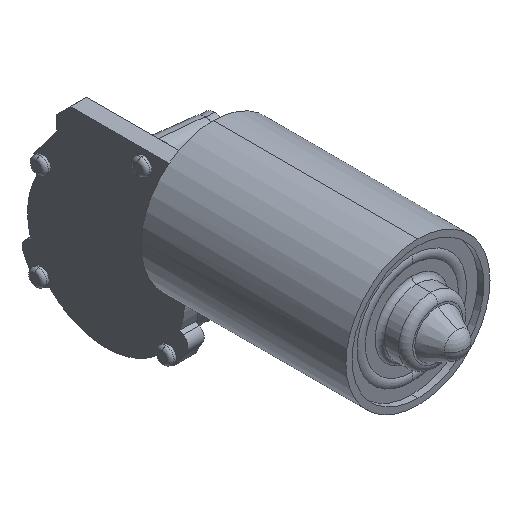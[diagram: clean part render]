
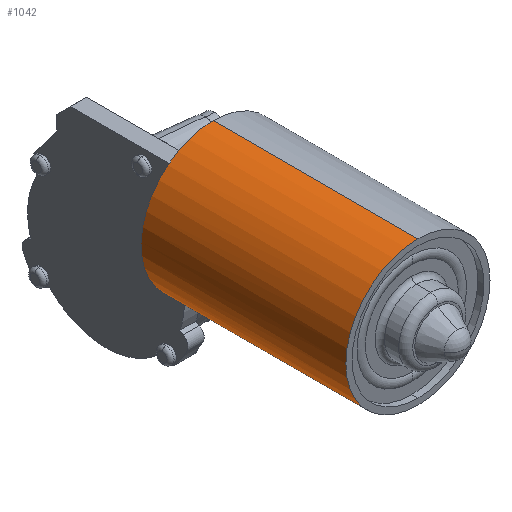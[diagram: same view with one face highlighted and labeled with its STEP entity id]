
A CAD part, isometric view. The second image highlights one B-rep face of the part: STEP entity #1042.
In plain terms, the highlighted cylindrical face has radius 30.6 mm (diameter 61.2 mm), a partial arc.
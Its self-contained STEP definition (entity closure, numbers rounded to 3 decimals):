
#120 = AXIS2_PLACEMENT_3D ( 'NONE', #14730, #22905, #12928 ) ;
#1042 = ADVANCED_FACE ( 'NONE', ( #17205 ), #10693, .T. ) ;
#1046 = CARTESIAN_POINT ( 'NONE',  ( 0., 126.755, -160. ) ) ;
#1133 = ORIENTED_EDGE ( 'NONE', *, *, #21324, .F. ) ;
#1521 = VERTEX_POINT ( 'NONE', #23685 ) ;
#1537 = ORIENTED_EDGE ( 'NONE', *, *, #10508, .T. ) ;
#1591 = CARTESIAN_POINT ( 'NONE',  ( 0., 40.055, -129.4 ) ) ;
#1840 = VECTOR ( 'NONE', #24479, 1000. ) ;
#1929 = VERTEX_POINT ( 'NONE', #6727 ) ;
#3098 = CARTESIAN_POINT ( 'NONE',  ( -12.5, 0., -187.93 ) ) ;
#3126 = CARTESIAN_POINT ( 'NONE',  ( -12.5, 127.055, -187.93 ) ) ;
#3853 = AXIS2_PLACEMENT_3D ( 'NONE', #14395, #22575, #22718 ) ;
#4060 = VECTOR ( 'NONE', #26447, 1000. ) ;
#4684 = EDGE_CURVE ( 'NONE', #1929, #9682, #13606, .T. ) ;
#5004 = EDGE_CURVE ( 'NONE', #23206, #26429, #14419, .T. ) ;
#5341 = AXIS2_PLACEMENT_3D ( 'NONE', #10437, #18892, #21904 ) ;
#5398 = CARTESIAN_POINT ( 'NONE',  ( -5.6, 126.755, -190.083 ) ) ;
#5983 = AXIS2_PLACEMENT_3D ( 'NONE', #1046, #22122, #11447 ) ;
#6575 = LINE ( 'NONE', #27405, #18640 ) ;
#6627 = CARTESIAN_POINT ( 'NONE',  ( -5.887, 126.755, -190.029 ) ) ;
#6727 = CARTESIAN_POINT ( 'NONE',  ( 0., 40.055, -190.6 ) ) ;
#6807 = VERTEX_POINT ( 'NONE', #11682 ) ;
#8848 = CARTESIAN_POINT ( 'NONE',  ( -5.744, 126.755, -190.056 ) ) ;
#9444 = CARTESIAN_POINT ( 'NONE',  ( 0., 0., -129.4 ) ) ;
#9594 = VERTEX_POINT ( 'NONE', #3126 ) ;
#9682 = VERTEX_POINT ( 'NONE', #1591 ) ;
#9912 = ORIENTED_EDGE ( 'NONE', *, *, #25897, .F. ) ;
#9932 = CARTESIAN_POINT ( 'NONE',  ( -5.6, 0., -190.083 ) ) ;
#10437 = CARTESIAN_POINT ( 'NONE',  ( 0., 127.055, -160. ) ) ;
#10508 = EDGE_CURVE ( 'NONE', #17617, #12398, #19917, .T. ) ;
#10680 = CARTESIAN_POINT ( 'NONE',  ( -5.6, 127.055, -190.083 ) ) ;
#10693 = CYLINDRICAL_SURFACE ( 'NONE', #120, 30.6 ) ;
#10967 = CIRCLE ( 'NONE', #11430, 30.6 ) ;
#11430 = AXIS2_PLACEMENT_3D ( 'NONE', #24996, #20147, #22370 ) ;
#11447 = DIRECTION ( 'NONE',  ( 0., 0., -1. ) ) ;
#11682 = CARTESIAN_POINT ( 'NONE',  ( 0., 127.055, -190.6 ) ) ;
#12398 = VERTEX_POINT ( 'NONE', #10680 ) ;
#12928 = DIRECTION ( 'NONE',  ( 0., 0., 1. ) ) ;
#13606 = CIRCLE ( 'NONE', #3853, 30.6 ) ;
#13906 = ORIENTED_EDGE ( 'NONE', *, *, #4684, .T. ) ;
#14016 = DIRECTION ( 'NONE',  ( 0., -1., 0. ) ) ;
#14395 = CARTESIAN_POINT ( 'NONE',  ( 0., 40.055, -160. ) ) ;
#14419 = CIRCLE ( 'NONE', #5983, 30.6 ) ;
#14730 = CARTESIAN_POINT ( 'NONE',  ( 0., 0., -160. ) ) ;
#15583 = ORIENTED_EDGE ( 'NONE', *, *, #23579, .F. ) ;
#15907 = EDGE_CURVE ( 'NONE', #6807, #12398, #10967, .T. ) ;
#15962 = LINE ( 'NONE', #9444, #23039 ) ;
#17156 = CARTESIAN_POINT ( 'NONE',  ( -6.03, 126.755, -190. ) ) ;
#17205 = FACE_OUTER_BOUND ( 'NONE', #18033, .T. ) ;
#17242 = B_SPLINE_CURVE_WITH_KNOTS ( 'NONE', 3,
 ( #25637, #8848, #6627, #21190 ),
 .UNSPECIFIED., .F., .F.,
 ( 4, 4 ),
 ( 0.109, 0.109 ),
 .UNSPECIFIED. ) ;
#17317 = CIRCLE ( 'NONE', #5341, 30.6 ) ;
#17617 = VERTEX_POINT ( 'NONE', #5398 ) ;
#18033 = EDGE_LOOP ( 'NONE', ( #19986, #26647, #13906, #1133, #9912, #15583, #19711, #24130, #1537 ) ) ;
#18640 = VECTOR ( 'NONE', #21012, 1000. ) ;
#18892 = DIRECTION ( 'NONE',  ( 0., 1., 0. ) ) ;
#19346 = CARTESIAN_POINT ( 'NONE',  ( -12.5, 126.755, -187.93 ) ) ;
#19711 = ORIENTED_EDGE ( 'NONE', *, *, #5004, .F. ) ;
#19917 = LINE ( 'NONE', #9932, #4060 ) ;
#19986 = ORIENTED_EDGE ( 'NONE', *, *, #15907, .F. ) ;
#20147 = DIRECTION ( 'NONE',  ( 0., 1., 0. ) ) ;
#20667 = EDGE_CURVE ( 'NONE', #17617, #23206, #17242, .T. ) ;
#21012 = DIRECTION ( 'NONE',  ( 0., -1., 0. ) ) ;
#21190 = CARTESIAN_POINT ( 'NONE',  ( -6.03, 126.755, -190. ) ) ;
#21324 = EDGE_CURVE ( 'NONE', #1521, #9682, #15962, .T. ) ;
#21904 = DIRECTION ( 'NONE',  ( 0., 0., 1. ) ) ;
#22102 = LINE ( 'NONE', #3098, #1840 ) ;
#22122 = DIRECTION ( 'NONE',  ( 0., 1., 0. ) ) ;
#22370 = DIRECTION ( 'NONE',  ( 0., 0., 1. ) ) ;
#22575 = DIRECTION ( 'NONE',  ( 0., 1., 0. ) ) ;
#22718 = DIRECTION ( 'NONE',  ( 0., 0., 1. ) ) ;
#22905 = DIRECTION ( 'NONE',  ( 0., -1., 0. ) ) ;
#23039 = VECTOR ( 'NONE', #14016, 1000. ) ;
#23206 = VERTEX_POINT ( 'NONE', #17156 ) ;
#23579 = EDGE_CURVE ( 'NONE', #26429, #9594, #22102, .T. ) ;
#23685 = CARTESIAN_POINT ( 'NONE',  ( 0., 127.055, -129.4 ) ) ;
#24130 = ORIENTED_EDGE ( 'NONE', *, *, #20667, .F. ) ;
#24479 = DIRECTION ( 'NONE',  ( 0., 1., 0. ) ) ;
#24996 = CARTESIAN_POINT ( 'NONE',  ( 0., 127.055, -160. ) ) ;
#25539 = EDGE_CURVE ( 'NONE', #6807, #1929, #6575, .T. ) ;
#25637 = CARTESIAN_POINT ( 'NONE',  ( -5.6, 126.755, -190.083 ) ) ;
#25897 = EDGE_CURVE ( 'NONE', #9594, #1521, #17317, .T. ) ;
#26429 = VERTEX_POINT ( 'NONE', #19346 ) ;
#26447 = DIRECTION ( 'NONE',  ( 0., 1., 0. ) ) ;
#26647 = ORIENTED_EDGE ( 'NONE', *, *, #25539, .T. ) ;
#27405 = CARTESIAN_POINT ( 'NONE',  ( 0., 0., -190.6 ) ) ;
